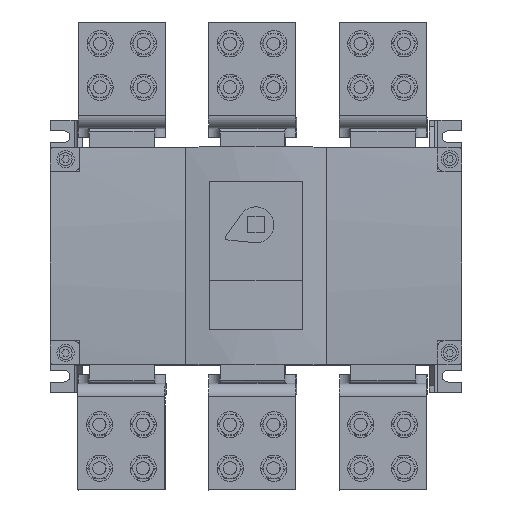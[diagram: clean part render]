
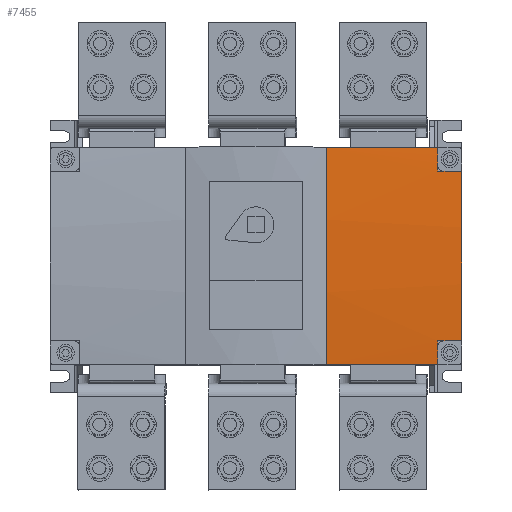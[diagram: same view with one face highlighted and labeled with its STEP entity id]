
A CAD part, top view. The second image highlights one B-rep face of the part: STEP entity #7455.
In plain terms, the highlighted cylindrical face has radius 1252 mm (diameter 2504 mm), a partial arc.
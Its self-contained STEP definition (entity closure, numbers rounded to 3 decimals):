
#6860=CARTESIAN_POINT('',(-189.,0.,-1228.));
#6861=DIRECTION('',(1.,0.,0.));
#6862=DIRECTION('',(0.,0.062,0.998));
#6863=AXIS2_PLACEMENT_3D('',#6860,#6861,#6862);
#6882=DIRECTION('',(1.,0.,0.));
#6883=VECTOR('',#6882,102.5);
#6884=CARTESIAN_POINT('',(-167.,100.,20.));
#6885=LINE('',#6884,#6883);
#6927=DIRECTION('',(1.,0.,0.));
#6928=VECTOR('',#6927,102.5);
#6929=CARTESIAN_POINT('',(-167.,-100.,20.));
#6930=LINE('',#6929,#6928);
#6958=CARTESIAN_POINT('',(-64.5,0.,-1228.));
#6959=DIRECTION('',(1.,0.,0.));
#6960=DIRECTION('',(0.,0.08,0.997));
#6961=AXIS2_PLACEMENT_3D('',#6958,#6959,#6960);
#6963=CARTESIAN_POINT('',(-167.,0.,-1228.));
#6964=DIRECTION('',(1.,0.,0.));
#6965=DIRECTION('',(0.,-0.062,0.998));
#6966=AXIS2_PLACEMENT_3D('',#6963,#6964,#6965);
#6968=DIRECTION('',(1.,0.,0.));
#6969=VECTOR('',#6968,22.);
#6970=CARTESIAN_POINT('',(-189.,-78.,21.568));
#6971=LINE('',#6970,#6969);
#6972=DIRECTION('',(1.,0.,0.));
#6973=VECTOR('',#6972,22.);
#6974=CARTESIAN_POINT('',(-189.,78.,21.568));
#6975=LINE('',#6974,#6973);
#6976=CARTESIAN_POINT('',(-167.,0.,-1228.));
#6977=DIRECTION('',(1.,0.,0.));
#6978=DIRECTION('',(0.,0.08,0.997));
#6979=AXIS2_PLACEMENT_3D('',#6976,#6977,#6978);
#7120=CARTESIAN_POINT('',(-189.,-78.,21.568));
#7121=VERTEX_POINT('',#7120);
#7122=CARTESIAN_POINT('',(-189.,78.,21.568));
#7123=VERTEX_POINT('',#7122);
#7124=CARTESIAN_POINT('',(-167.,-100.,20.));
#7125=VERTEX_POINT('',#7124);
#7126=CARTESIAN_POINT('',(-167.,100.,20.));
#7127=VERTEX_POINT('',#7126);
#7136=CARTESIAN_POINT('',(-167.,-78.,21.568));
#7137=VERTEX_POINT('',#7136);
#7138=CARTESIAN_POINT('',(-167.,78.,21.568));
#7139=VERTEX_POINT('',#7138);
#7148=CARTESIAN_POINT('',(-64.5,100.,20.));
#7149=CARTESIAN_POINT('',(-64.5,-100.,20.));
#7150=VERTEX_POINT('',#7148);
#7151=VERTEX_POINT('',#7149);
#7440=CARTESIAN_POINT('',(189.,0.,-1228.));
#7441=DIRECTION('',(1.,0.,0.));
#7442=DIRECTION('',(0.,1.,0.));
#7443=AXIS2_PLACEMENT_3D('',#7440,#7441,#7442);
#7444=CYLINDRICAL_SURFACE('',#7443,1252.);
#7445=ORIENTED_EDGE('',*,*,#7413,.T.);
#7446=ORIENTED_EDGE('',*,*,#7401,.F.);
#7447=ORIENTED_EDGE('',*,*,#7262,.F.);
#7448=ORIENTED_EDGE('',*,*,#7277,.F.);
#7449=ORIENTED_EDGE('',*,*,#7292,.F.);
#7450=ORIENTED_EDGE('',*,*,#7305,.T.);
#7451=ORIENTED_EDGE('',*,*,#7319,.F.);
#7452=ORIENTED_EDGE('',*,*,#7336,.T.);
#7453=EDGE_LOOP('',(#7445,#7446,#7447,#7448,#7449,#7450,#7451,#7452));
#7454=FACE_OUTER_BOUND('',#7453,.F.);
#7455=ADVANCED_FACE('',(#7454),#7444,.T.);
#6864=CIRCLE('',#6863,1252.);
#6962=CIRCLE('',#6961,1252.);
#6967=CIRCLE('',#6966,1252.);
#6980=CIRCLE('',#6979,1252.);
#7262=EDGE_CURVE('',#7137,#7125,#6967,.T.);
#7277=EDGE_CURVE('',#7121,#7137,#6971,.T.);
#7292=EDGE_CURVE('',#7123,#7121,#6864,.T.);
#7305=EDGE_CURVE('',#7123,#7139,#6975,.T.);
#7319=EDGE_CURVE('',#7127,#7139,#6980,.T.);
#7336=EDGE_CURVE('',#7127,#7150,#6885,.T.);
#7401=EDGE_CURVE('',#7125,#7151,#6930,.T.);
#7413=EDGE_CURVE('',#7150,#7151,#6962,.T.);
